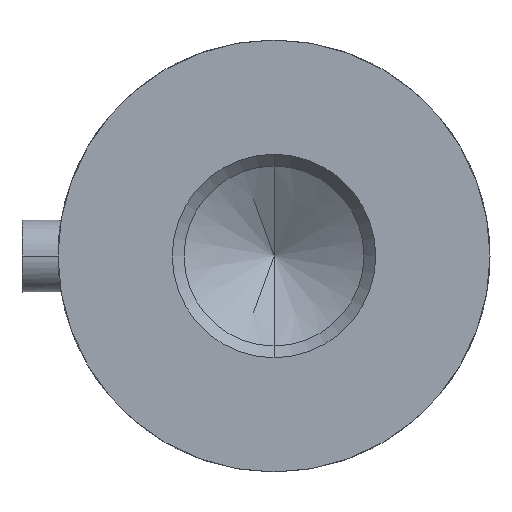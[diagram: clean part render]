
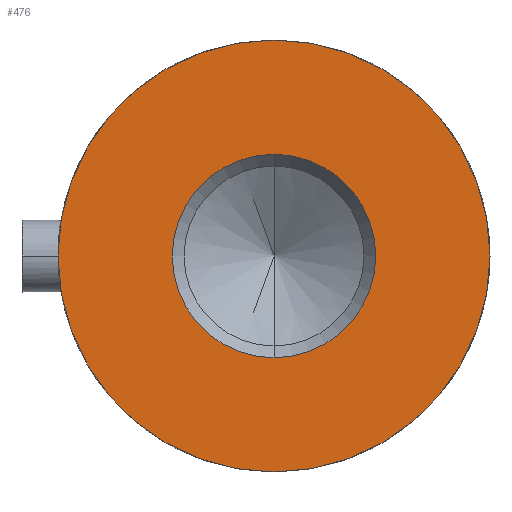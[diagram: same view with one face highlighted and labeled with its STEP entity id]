
A CAD part, front view. The second image highlights one B-rep face of the part: STEP entity #476.
In plain terms, the highlighted planar face has unit normal (0, -1, 0).
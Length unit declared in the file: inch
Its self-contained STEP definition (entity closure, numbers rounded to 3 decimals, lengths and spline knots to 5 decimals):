
#4 = CARTESIAN_POINT ( 'NONE',  ( 0., 0., -0.3533 ) ) ;
#16 = CARTESIAN_POINT ( 'NONE',  ( 0., 0., 0.75 ) ) ;
#35 = CARTESIAN_POINT ( 'NONE',  ( 0., 0., -0.75 ) ) ;
#43 = CARTESIAN_POINT ( 'NONE',  ( 0., 0., 0.3533 ) ) ;
#132 = CARTESIAN_POINT ( 'NONE',  ( 0., 0., 0. ) ) ;
#134 = DIRECTION ( 'NONE',  ( 0., 0., 1. ) ) ;
#136 = PLANE ( 'NONE',  #939 ) ;
#142 = DIRECTION ( 'NONE',  ( 0., 1., 0. ) ) ;
#145 = DIRECTION ( 'NONE',  ( 0., 1., 0. ) ) ;
#148 = DIRECTION ( 'NONE',  ( 0., 0., 1. ) ) ;
#149 = CARTESIAN_POINT ( 'NONE',  ( 0., 0., 0. ) ) ;
#207 = CARTESIAN_POINT ( 'NONE',  ( 0., 0., 0. ) ) ;
#212 = DIRECTION ( 'NONE',  ( 0., 0., -1. ) ) ;
#251 = DIRECTION ( 'NONE',  ( 0., -1., 0. ) ) ;
#254 = DIRECTION ( 'NONE',  ( 0., 1., 0. ) ) ;
#256 = DIRECTION ( 'NONE',  ( 0., 0., 1. ) ) ;
#306 = CARTESIAN_POINT ( 'NONE',  ( 0., 0., 0. ) ) ;
#382 = DIRECTION ( 'NONE',  ( 0., 0., -1. ) ) ;
#396 = CARTESIAN_POINT ( 'NONE',  ( 0., 0., 0. ) ) ;
#411 = DIRECTION ( 'NONE',  ( 0., -1., 0. ) ) ;
#428 = VERTEX_POINT ( 'NONE', #35 ) ;
#435 = VERTEX_POINT ( 'NONE', #16 ) ;
#443 = VERTEX_POINT ( 'NONE', #43 ) ;
#444 = VERTEX_POINT ( 'NONE', #4 ) ;
#476 = ADVANCED_FACE ( 'NONE', ( #591, #592 ), #136, .F. ) ;
#481 = EDGE_CURVE ( 'NONE', #428, #435, #646, .T. ) ;
#483 = CIRCLE ( 'NONE', #942, 0.3533 ) ;
#545 = CIRCLE ( 'NONE', #933, 0.75 ) ;
#573 = CIRCLE ( 'NONE', #920, 0.3533 ) ;
#591 = FACE_BOUND ( 'NONE', #812, .T. ) ;
#592 = FACE_OUTER_BOUND ( 'NONE', #809, .T. ) ;
#646 = CIRCLE ( 'NONE', #913, 0.75 ) ;
#733 = ORIENTED_EDGE ( 'NONE', *, *, #481, .F. ) ;
#746 = ORIENTED_EDGE ( 'NONE', *, *, #908, .F. ) ;
#748 = ORIENTED_EDGE ( 'NONE', *, *, #857, .F. ) ;
#767 = ORIENTED_EDGE ( 'NONE', *, *, #866, .F. ) ;
#809 = EDGE_LOOP ( 'NONE', ( #733, #767 ) ) ;
#812 = EDGE_LOOP ( 'NONE', ( #748, #746 ) ) ;
#857 = EDGE_CURVE ( 'NONE', #444, #443, #573, .T. ) ;
#866 = EDGE_CURVE ( 'NONE', #435, #428, #545, .T. ) ;
#908 = EDGE_CURVE ( 'NONE', #443, #444, #483, .T. ) ;
#913 = AXIS2_PLACEMENT_3D ( 'NONE', #132, #142, #134 ) ;
#920 = AXIS2_PLACEMENT_3D ( 'NONE', #207, #251, #212 ) ;
#933 = AXIS2_PLACEMENT_3D ( 'NONE', #306, #254, #256 ) ;
#939 = AXIS2_PLACEMENT_3D ( 'NONE', #149, #145, #148 ) ;
#942 = AXIS2_PLACEMENT_3D ( 'NONE', #396, #411, #382 ) ;
